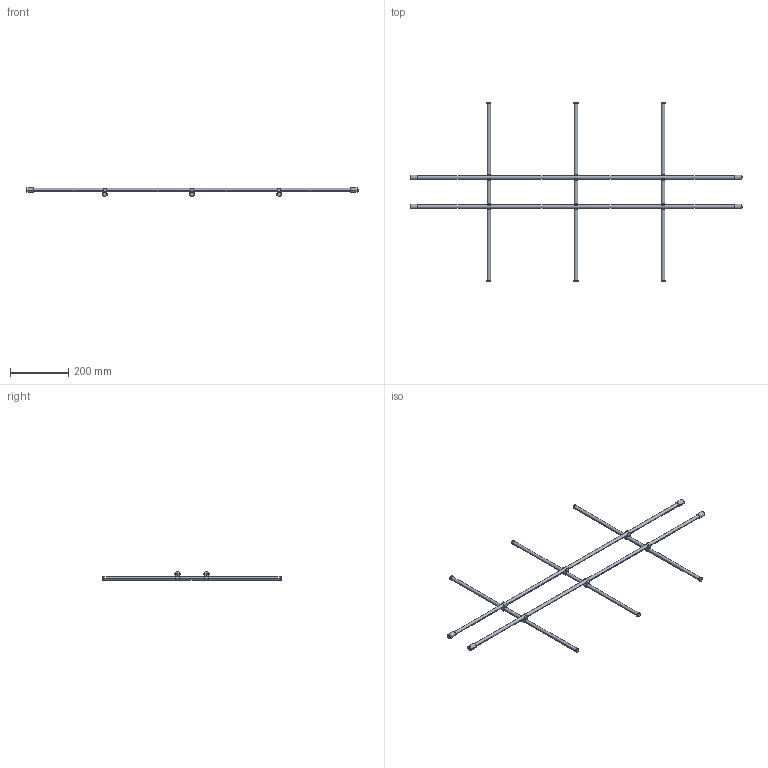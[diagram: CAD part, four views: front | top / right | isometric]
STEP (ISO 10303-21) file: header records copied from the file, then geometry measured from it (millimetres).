
FILE_DESCRIPTION (( 'STEP AP214' ), '1' );
FILE_NAME ('Magic-Classic_NL-650-KAB 1200.step', '2010-09-16T12:49:48', ( 'grass' ), ( '' ), 'SwSTEP 2.0', 'SolidWorks 2010', '' );
FILE_SCHEMA (( 'AUTOMOTIVE_DESIGN' ));
Length unit declared in the file: millimetre
Products named in the file (1): Magic-Classic_NL-650-KAB 1200
Bounding box: 1143 x 615 x 30.45 mm (x, y, z)
Volume: 491207.7 mm3; surface area: 163561.3 mm2
Topology: 1 solids, 1 shells, 190 faces, 534 edges, 356 vertices
Faces by surface type: plane 104, cylinder 86
Entity records: 6260 total; most frequent: DIRECTION 1136, CARTESIAN_POINT 1081, ORIENTED_EDGE 1068, EDGE_CURVE 534, AXIS2_PLACEMENT_3D 411, VERTEX_POINT 356, VECTOR 314, LINE 314
